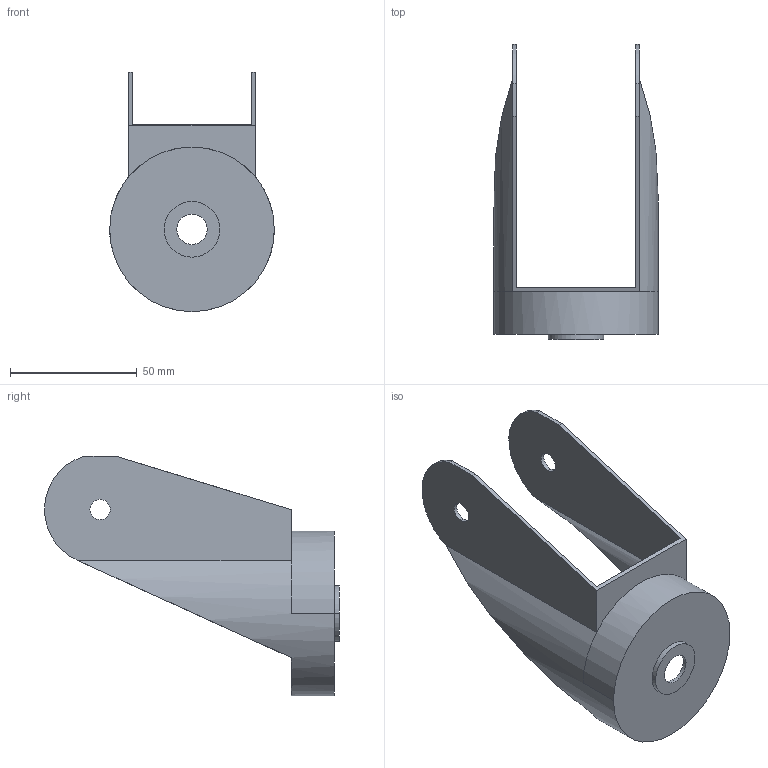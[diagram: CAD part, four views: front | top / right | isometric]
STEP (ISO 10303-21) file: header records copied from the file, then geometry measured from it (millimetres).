
FILE_DESCRIPTION((''),'2;1');
FILE_NAME('RUP125_2','2002-12-27T',('Lipro doo'),('Lipro d.o.o.'),'PRO/ENGINEER BY PARAMETRIC TECHNOLOGY CORPORATION, 2001150','PRO/ENGINEER BY PARAMETRIC TECHNOLOGY CORPORATION, 2001150','');
FILE_SCHEMA(('CONFIG_CONTROL_DESIGN'));
Length unit declared in the file: millimetre
Products named in the file (1): RUP125_2
Bounding box: 65 x 116.41 x 94.5 mm (x, y, z)
Volume: 25062.9 mm3; surface area: 34433.4 mm2
Topology: 1 solids, 1 shells, 32 faces, 85 edges, 57 vertices
Faces by surface type: plane 16, cylinder 16
Entity records: 1082 total; most frequent: CARTESIAN_POINT 206, DIRECTION 178, ORIENTED_EDGE 170, EDGE_CURVE 85, AXIS2_PLACEMENT_3D 67, VERTEX_POINT 57, VECTOR 44, LINE 44
